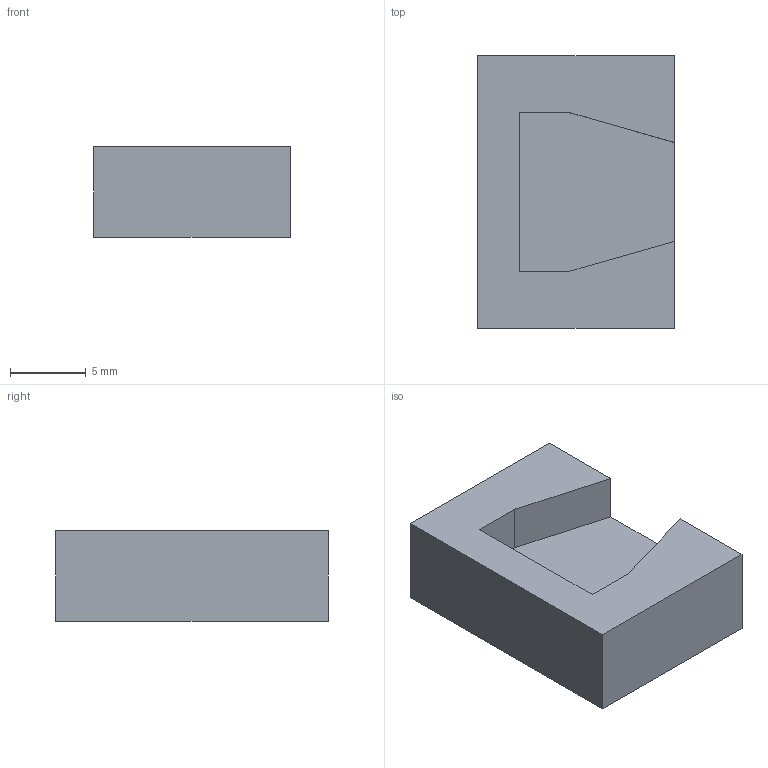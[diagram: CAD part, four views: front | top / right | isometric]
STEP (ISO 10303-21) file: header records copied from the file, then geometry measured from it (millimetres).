
FILE_DESCRIPTION(('Open CASCADE Model'),'2;1');
FILE_NAME('Open CASCADE Shape Model','2026-10-02T13:48:50',('Author'),( 'Open CASCADE'),'Open CASCADE STEP processor 7.8','Open CASCADE 7.8' ,'Unknown');
FILE_SCHEMA(('AUTOMOTIVE_DESIGN { 1 0 10303 214 1 1 1 1 }'));
Length unit declared in the file: millimetre
Products named in the file (1): Open CASCADE STEP translator 7.8 10
Bounding box: 13 x 18 x 6 mm (x, y, z)
Volume: 1113.3 mm3; surface area: 917.6 mm2
Topology: 1 solids, 1 shells, 12 faces, 30 edges, 20 vertices
Faces by surface type: plane 12
Entity records: 754 total; most frequent: CARTESIAN_POINT 123, DIRECTION 116, LINE 90, VECTOR 90, ORIENTED_EDGE 60, PCURVE 60, DEFINITIONAL_REPRESENTATION 60, EDGE_CURVE 30
